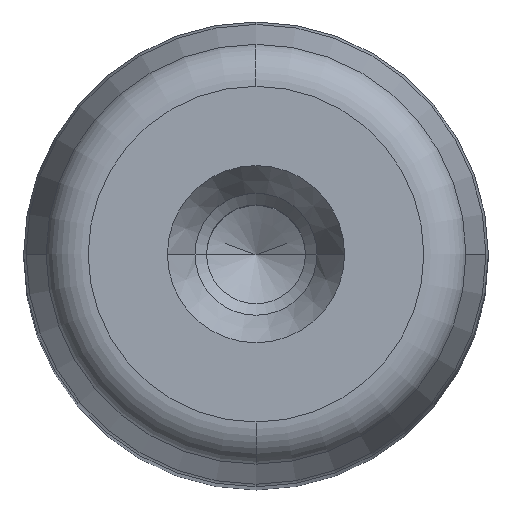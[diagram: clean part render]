
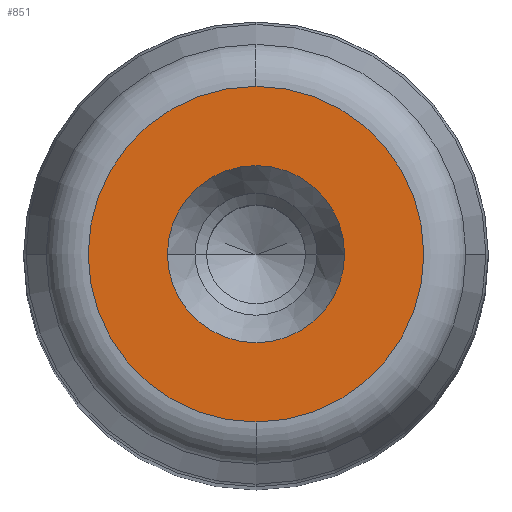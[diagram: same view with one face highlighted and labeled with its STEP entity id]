
A CAD part, top view. The second image highlights one B-rep face of the part: STEP entity #851.
In plain terms, the highlighted planar face has unit normal (0, 0, 1) as drawn and (0, 1, 0) by its records, which use the part's own axes.
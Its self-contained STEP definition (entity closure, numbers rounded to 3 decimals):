
#281=CARTESIAN_POINT('',(6.1,140.0,0.0));
#282=VERTEX_POINT('',#281);
#289=CARTESIAN_POINT('',(-6.1,140.0,0.));
#290=VERTEX_POINT('',#289);
#291=CARTESIAN_POINT('',(0.0,140.0,0.0));
#292=DIRECTION('',(0.0,1.0,0.0));
#293=DIRECTION('',(1.0,0.0,0.0));
#294=AXIS2_PLACEMENT_3D('',#291,#292,#293);
#295=CIRCLE('',#294,6.1);
#296=EDGE_CURVE('',#282,#290,#295,.T.);
#313=CARTESIAN_POINT('',(0.0,140.,11.554));
#314=VERTEX_POINT('',#313);
#324=CARTESIAN_POINT('',(0.,140.,-11.554));
#325=VERTEX_POINT('',#324);
#326=CARTESIAN_POINT('',(0.0,140.,0.0));
#327=DIRECTION('',(0.0,1.0,0.0));
#328=DIRECTION('',(1.0,0.0,0.0));
#329=AXIS2_PLACEMENT_3D('',#326,#327,#328);
#330=CIRCLE('',#329,11.554);
#331=EDGE_CURVE('',#325,#314,#330,.T.);
#812=CARTESIAN_POINT('',(11.554,140.,0.0));
#813=VERTEX_POINT('',#812);
#814=CARTESIAN_POINT('',(0.0,140.,0.0));
#815=DIRECTION('',(0.0,1.0,0.0));
#816=DIRECTION('',(1.0,0.0,0.0));
#817=AXIS2_PLACEMENT_3D('',#814,#815,#816);
#818=CIRCLE('',#817,11.554);
#819=EDGE_CURVE('',#813,#325,#818,.T.);
#821=CARTESIAN_POINT('',(0.0,140.,0.0));
#822=DIRECTION('',(0.0,1.0,0.0));
#823=DIRECTION('',(1.0,0.0,0.0));
#824=AXIS2_PLACEMENT_3D('',#821,#822,#823);
#825=CIRCLE('',#824,11.554);
#826=EDGE_CURVE('',#314,#813,#825,.T.);
#831=CARTESIAN_POINT('',(-12.71,140.0,-12.71));
#832=DIRECTION('',(0.0,1.0,0.0));
#833=DIRECTION('',(0.0,0.0,1.0));
#834=AXIS2_PLACEMENT_3D('',#831,#832,#833);
#835=PLANE('',#834);
#836=ORIENTED_EDGE('',*,*,#819,.T.);
#837=ORIENTED_EDGE('',*,*,#331,.T.);
#838=ORIENTED_EDGE('',*,*,#826,.T.);
#839=EDGE_LOOP('',(#836,#837,#838));
#840=FACE_OUTER_BOUND('',#839,.T.);
#841=ORIENTED_EDGE('',*,*,#296,.F.);
#842=CARTESIAN_POINT('',(0.0,140.0,0.0));
#843=DIRECTION('',(0.0,1.0,0.0));
#844=DIRECTION('',(1.0,0.0,0.0));
#845=AXIS2_PLACEMENT_3D('',#842,#843,#844);
#846=CIRCLE('',#845,6.1);
#847=EDGE_CURVE('',#290,#282,#846,.T.);
#848=ORIENTED_EDGE('',*,*,#847,.F.);
#849=EDGE_LOOP('',(#841,#848));
#850=FACE_BOUND('',#849,.T.);
#851=ADVANCED_FACE('',(#840,#850),#835,.T.);
